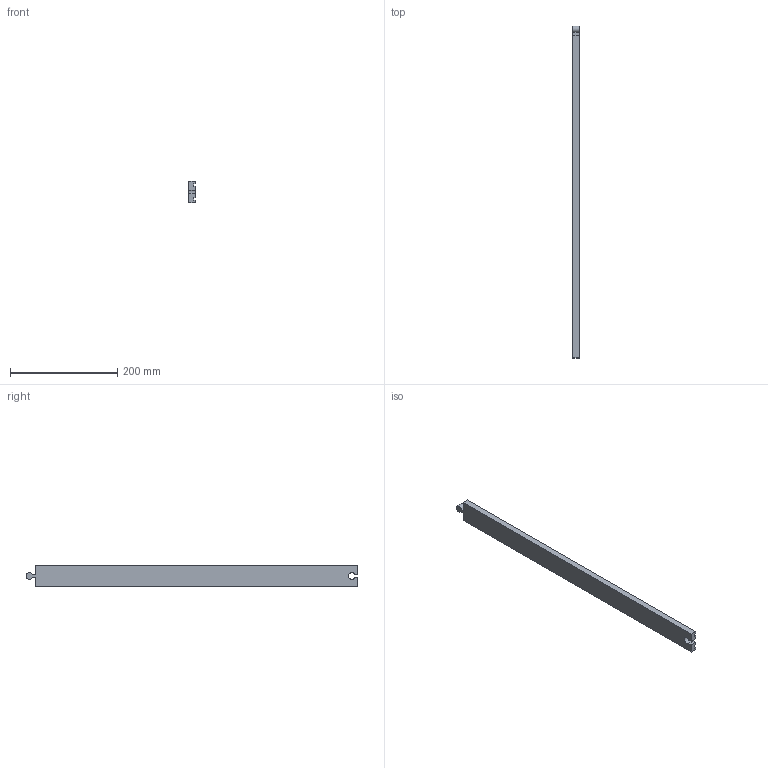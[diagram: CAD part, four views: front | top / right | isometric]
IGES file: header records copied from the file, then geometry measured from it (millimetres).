
Start section: START RECORD GO HERE.
Global section: file name: Track_Straight.igs; native system: IBM CATIA IGES - CATIA Version 5 Release 18 ; preprocessor: CATIA Version 5 Release 18 ; author: inbox; organization: DESKTOP-1RI9TA7; date: 20201217.212134; units: millimetre
Bounding box: 12.2 x 617.75 x 40.5 mm (x, y, z)
Surface area: 72276.7 mm2 (no closed solid volume)
Topology: 0 solids, 0 shells, 22 faces, 120 edges, 120 vertices
Faces by surface type: plane 20, revolution 2
